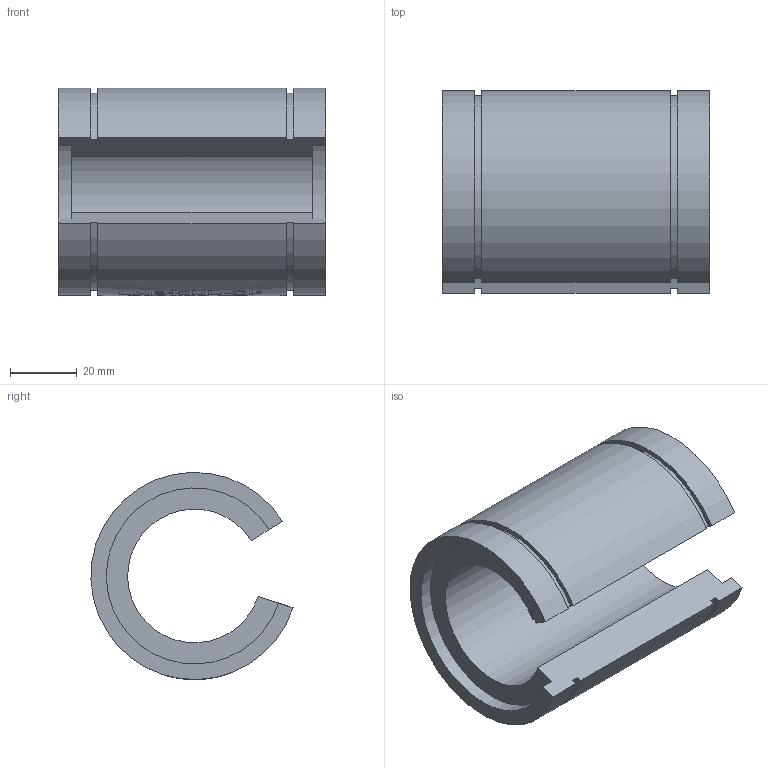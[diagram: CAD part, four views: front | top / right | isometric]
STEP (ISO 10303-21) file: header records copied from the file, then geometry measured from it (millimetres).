
FILE_DESCRIPTION(/* description */ (''),/* implementation_level */ '2;1');
FILE_NAME(/* name */ 'LME40UU-OP',/* time_stamp */ '2019-07-02T16:23:15+02:00',/* author */ ('VĂ©gh MĂˇtĂ©'),/* organization */ ('Bearing Kft'),/* preprocessor_version */ 'ST-DEVELOPER v16.7',/* originating_system */ 'DEX',/* authorisation */ $);
FILE_SCHEMA (('AUTOMOTIVE_DESIGN {1 0 10303 214 3 1 1}'));
Length unit declared in the file: millimetre
Products named in the file (1): LME40UU-OP
Bounding box: 80 x 60.48 x 61.98 mm (x, y, z)
Volume: 114045 mm3; surface area: 28067 mm2
Topology: 1 solids, 1 shells, 343 faces, 868 edges, 579 vertices
Faces by surface type: plane 189, bspline 94, cylinder 60
Entity records: 19706 total; most frequent: CARTESIAN_POINT 11884, ORIENTED_EDGE 1726, DIRECTION 1350, EDGE_CURVE 863, VERTEX_POINT 579, LINE 492, VECTOR 492, AXIS2_PLACEMENT_3D 429
